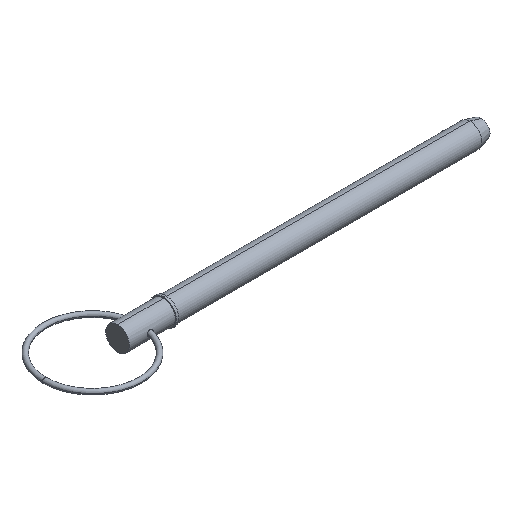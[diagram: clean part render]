
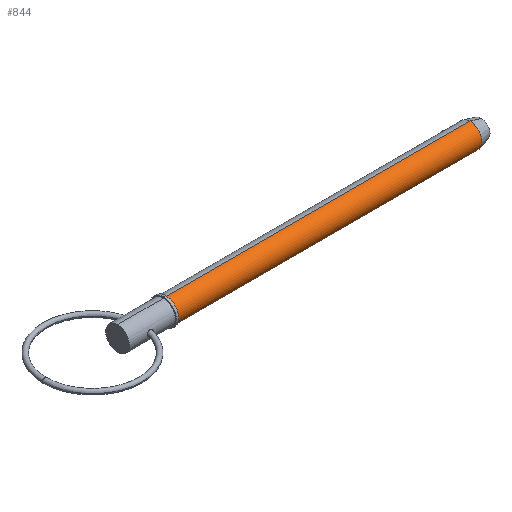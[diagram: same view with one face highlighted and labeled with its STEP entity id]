
A CAD part, isometric view. The second image highlights one B-rep face of the part: STEP entity #844.
In plain terms, the highlighted cylindrical face has radius 6.35 mm (diameter 12.7 mm), a partial arc.
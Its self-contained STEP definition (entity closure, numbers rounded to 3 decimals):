
#4 = EDGE_CURVE ( 'NONE', #964, #835, #284, .T. ) ;
#60 = CIRCLE ( 'NONE', #354, 6.35 ) ;
#81 = ORIENTED_EDGE ( 'NONE', *, *, #886, .T. ) ;
#90 = CARTESIAN_POINT ( 'NONE',  ( 0., 0., 6.35 ) ) ;
#130 = CARTESIAN_POINT ( 'NONE',  ( 25.7, 0., 0. ) ) ;
#149 = CARTESIAN_POINT ( 'NONE',  ( 25.7, 0., -6.35 ) ) ;
#235 = AXIS2_PLACEMENT_3D ( 'NONE', #501, #685, #430 ) ;
#251 = CARTESIAN_POINT ( 'NONE',  ( 188.055, 0., 6.35 ) ) ;
#284 = CIRCLE ( 'NONE', #235, 6.35 ) ;
#314 = ORIENTED_EDGE ( 'NONE', *, *, #696, .T. ) ;
#316 = DIRECTION ( 'NONE',  ( 1., 0., 0. ) ) ;
#340 = AXIS2_PLACEMENT_3D ( 'NONE', #561, #728, #555 ) ;
#354 = AXIS2_PLACEMENT_3D ( 'NONE', #130, #454, #699 ) ;
#373 = VECTOR ( 'NONE', #316, 1000. ) ;
#405 = CYLINDRICAL_SURFACE ( 'NONE', #340, 6.35 ) ;
#430 = DIRECTION ( 'NONE',  ( 0., 0., -1. ) ) ;
#454 = DIRECTION ( 'NONE',  ( 1., 0., 0. ) ) ;
#473 = LINE ( 'NONE', #90, #373 ) ;
#501 = CARTESIAN_POINT ( 'NONE',  ( 188.055, 0., 0. ) ) ;
#555 = DIRECTION ( 'NONE',  ( 0., 0., -1. ) ) ;
#558 = EDGE_LOOP ( 'NONE', ( #737, #314, #81, #595 ) ) ;
#561 = CARTESIAN_POINT ( 'NONE',  ( 0., 0., 0. ) ) ;
#574 = VERTEX_POINT ( 'NONE', #822 ) ;
#595 = ORIENTED_EDGE ( 'NONE', *, *, #4, .F. ) ;
#636 = CARTESIAN_POINT ( 'NONE',  ( 188.055, 0., -6.35 ) ) ;
#685 = DIRECTION ( 'NONE',  ( 1., 0., 0. ) ) ;
#696 = EDGE_CURVE ( 'NONE', #574, #975, #60, .T. ) ;
#699 = DIRECTION ( 'NONE',  ( 0., 0., -1. ) ) ;
#728 = DIRECTION ( 'NONE',  ( 1., 0., 0. ) ) ;
#735 = CARTESIAN_POINT ( 'NONE',  ( 0., 0., -6.35 ) ) ;
#737 = ORIENTED_EDGE ( 'NONE', *, *, #996, .F. ) ;
#740 = LINE ( 'NONE', #735, #999 ) ;
#804 = DIRECTION ( 'NONE',  ( 1., 0., 0. ) ) ;
#822 = CARTESIAN_POINT ( 'NONE',  ( 25.7, 0., 6.35 ) ) ;
#835 = VERTEX_POINT ( 'NONE', #636 ) ;
#844 = ADVANCED_FACE ( 'NONE', ( #887 ), #405, .T. ) ;
#886 = EDGE_CURVE ( 'NONE', #975, #835, #740, .T. ) ;
#887 = FACE_OUTER_BOUND ( 'NONE', #558, .T. ) ;
#964 = VERTEX_POINT ( 'NONE', #251 ) ;
#975 = VERTEX_POINT ( 'NONE', #149 ) ;
#996 = EDGE_CURVE ( 'NONE', #574, #964, #473, .T. ) ;
#999 = VECTOR ( 'NONE', #804, 1000. ) ;
